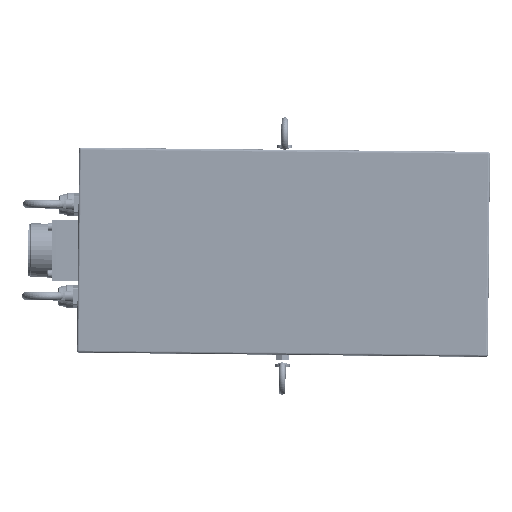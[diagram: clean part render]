
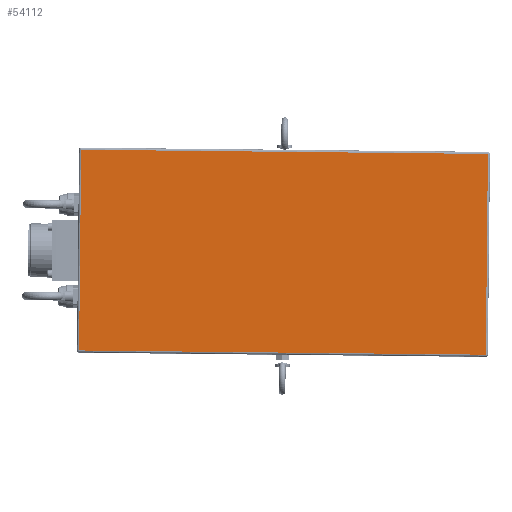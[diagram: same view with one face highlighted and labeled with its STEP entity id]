
A CAD part, top view. The second image highlights one B-rep face of the part: STEP entity #54112.
In plain terms, the highlighted planar face has unit normal (0, 0, 1).
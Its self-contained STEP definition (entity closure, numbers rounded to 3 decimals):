
#54073=CARTESIAN_POINT('',(-101.478,98.56,142.52));
#54074=DIRECTION('',(0.01,1.,0.));
#54075=DIRECTION('',(0.,0.,1.));
#54076=AXIS2_PLACEMENT_3D('',#54073,#54075,#54074);
#54077=PLANE('',#54076);
#54078=CARTESIAN_POINT('',(89.01,-95.931,142.52));
#54079=VERTEX_POINT('',#54078);
#54080=CARTESIAN_POINT('',(90.986,94.059,142.52));
#54081=VERTEX_POINT('',#54080);
#54082=CARTESIAN_POINT('',(89.01,-95.931,142.52));
#54083=DIRECTION('',(0.01,1.,0.));
#54084=VECTOR('',#54083,190.);
#54085=LINE('',#54082,#54084);
#54086=EDGE_CURVE('',#54079,#54081,#54085,.T.);
#54087=ORIENTED_EDGE('E103',*,*,#54086,.T.);
#54088=CARTESIAN_POINT('',(-293.994,98.062,142.52));
#54089=VERTEX_POINT('',#54088);
#54090=CARTESIAN_POINT('',(90.986,94.059,142.52));
#54091=DIRECTION('',(-1.,0.01,0.));
#54092=VECTOR('',#54091,385.);
#54093=LINE('',#54090,#54092);
#54094=EDGE_CURVE('',#54081,#54089,#54093,.T.);
#54095=ORIENTED_EDGE('E108',*,*,#54094,.T.);
#54096=CARTESIAN_POINT('',(-295.969,-91.928,142.52));
#54097=VERTEX_POINT('',#54096);
#54098=CARTESIAN_POINT('',(-293.994,98.062,142.52));
#54099=DIRECTION('',(-0.01,-1.,0.));
#54100=VECTOR('',#54099,190.);
#54101=LINE('',#54098,#54100);
#54102=EDGE_CURVE('',#54089,#54097,#54101,.T.);
#54103=ORIENTED_EDGE('E110',*,*,#54102,.T.);
#54104=CARTESIAN_POINT('',(-295.969,-91.928,142.52));
#54105=DIRECTION('',(1.,-0.01,0.));
#54106=VECTOR('',#54105,385.);
#54107=LINE('',#54104,#54106);
#54108=EDGE_CURVE('',#54097,#54079,#54107,.T.);
#54109=ORIENTED_EDGE('E106',*,*,#54108,.T.);
#54110=EDGE_LOOP('',(#54087,#54095,#54103,#54109));
#54111=FACE_OUTER_BOUND('',#54110,.T.);
#54112=ADVANCED_FACE('F8',(#54111),#54077,.T.);
